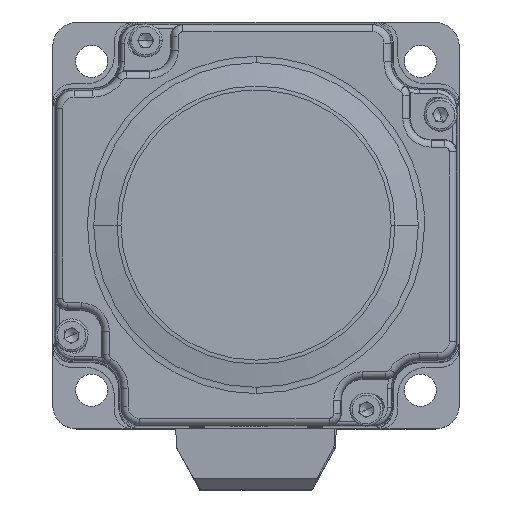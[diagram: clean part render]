
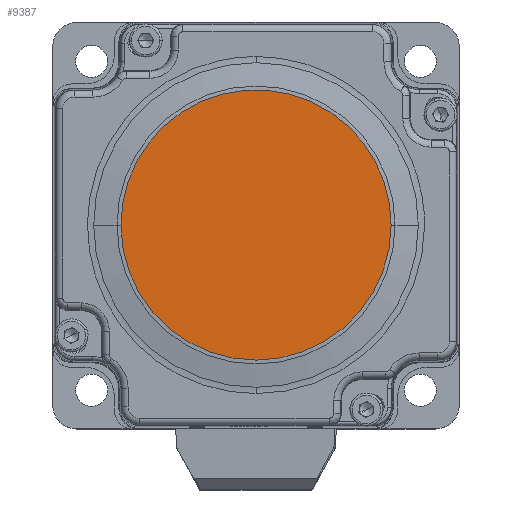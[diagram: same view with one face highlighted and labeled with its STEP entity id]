
A CAD part, top view. The second image highlights one B-rep face of the part: STEP entity #9387.
In plain terms, the highlighted planar face has unit normal (0, 0, 1).
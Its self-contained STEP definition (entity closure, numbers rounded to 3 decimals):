
#353 = AXIS2_PLACEMENT_3D ( 'NONE', #16761, #37972, #19831 ) ;
#804 = CARTESIAN_POINT ( 'NONE',  ( -28.586, -0.063, 38.074 ) ) ;
#863 = ORIENTED_EDGE ( 'NONE', *, *, #30570, .F. ) ;
#1320 = VERTEX_POINT ( 'NONE', #17753 ) ;
#1958 = CARTESIAN_POINT ( 'NONE',  ( -25.705, 12.644, 38.074 ) ) ;
#2082 = CARTESIAN_POINT ( 'NONE',  ( 3.645, 28.414, 38.074 ) ) ;
#2210 = CARTESIAN_POINT ( 'NONE',  ( 28.378, 3.913, 38.074 ) ) ;
#3184 = ORIENTED_EDGE ( 'NONE', *, *, #31317, .F. ) ;
#3390 = ORIENTED_EDGE ( 'NONE', *, *, #11995, .F. ) ;
#4453 = B_SPLINE_CURVE_WITH_KNOTS ( 'NONE', 3,
 ( #20517, #17400, #35635, #23604, #4919, #26656, #8048, #29694, #11262, #32798, #14418, #35763, #17529, #38729, #20640, #1958, #23738, #5043, #26780, #8180, #29817, #11390, #32925, #14539, #35877, #17661, #38861, #20765, #2082, #23875, #5163, #26909, #8323, #29946, #11522, #33048, #14684, #35997, #17786, #38994, #20902, #2210, #24007, #5304 ),
 .UNSPECIFIED., .F., .F.,
 ( 4, 2, 1, 1, 1, 1, 1, 1, 2, 2, 2, 2, 2, 2, 2, 2, 2, 2, 2, 2, 2, 2, 2, 2, 4 ),
 ( 0.003, 0.003, 0.003, 0.004, 0.005, 0.007, 0.011, 0.019, 0.034, 0.065, 0.128, 0.19, 0.252, 0.315, 0.377, 0.439, 0.501, 0.564, 0.626, 0.688, 0.751, 0.813, 0.875, 0.938, 1. ),
 .UNSPECIFIED. ) ;
#4919 = CARTESIAN_POINT ( 'NONE',  ( -28.586, 0.051, 38.074 ) ) ;
#5043 = CARTESIAN_POINT ( 'NONE',  ( -22.752, 17.407, 38.074 ) ) ;
#5163 = CARTESIAN_POINT ( 'NONE',  ( 9.107, 27.161, 38.074 ) ) ;
#5304 = CARTESIAN_POINT ( 'NONE',  ( 28.585, 0.18, 38.074 ) ) ;
#6978 = ORIENTED_EDGE ( 'NONE', *, *, #13167, .F. ) ;
#8048 = CARTESIAN_POINT ( 'NONE',  ( -28.585, 0.204, 38.074 ) ) ;
#8180 = CARTESIAN_POINT ( 'NONE',  ( -18.927, 21.504, 38.074 ) ) ;
#8323 = CARTESIAN_POINT ( 'NONE',  ( 14.221, 24.868, 38.074 ) ) ;
#9237 = CARTESIAN_POINT ( 'NONE',  ( -28.585, -0.18, 38.074 ) ) ;
#9387 = ADVANCED_FACE ( 'NONE', ( #35134 ), #34380, .F. ) ;
#9737 = CARTESIAN_POINT ( 'NONE',  ( 0., 0., 38.074 ) ) ;
#10898 = CARTESIAN_POINT ( 'NONE',  ( 0., 0., 38.074 ) ) ;
#11262 = CARTESIAN_POINT ( 'NONE',  ( -28.576, 0.817, 38.074 ) ) ;
#11390 = CARTESIAN_POINT ( 'NONE',  ( -14.378, 24.778, 38.074 ) ) ;
#11522 = CARTESIAN_POINT ( 'NONE',  ( 18.791, 21.623, 38.074 ) ) ;
#11628 = CARTESIAN_POINT ( 'NONE',  ( -28.586, 0., 38.074 ) ) ;
#11995 = EDGE_CURVE ( 'NONE', #25074, #1320, #12356, .T. ) ;
#12251 = CARTESIAN_POINT ( 'NONE',  ( 28.585, 0.18, 38.074 ) ) ;
#12356 = CIRCLE ( 'NONE', #353, 28.586 ) ;
#13051 = EDGE_LOOP ( 'NONE', ( #3184, #863, #3390, #6978 ) ) ;
#13167 = EDGE_CURVE ( 'NONE', #38525, #25074, #4453, .T. ) ;
#14082 = DIRECTION ( 'NONE',  ( -1., 0., 0. ) ) ;
#14418 = CARTESIAN_POINT ( 'NONE',  ( -28.494, 2.332, 38.074 ) ) ;
#14519 = VERTEX_POINT ( 'NONE', #9237 ) ;
#14539 = CARTESIAN_POINT ( 'NONE',  ( -9.279, 27.103, 38.074 ) ) ;
#14684 = CARTESIAN_POINT ( 'NONE',  ( 22.641, 17.55, 38.074 ) ) ;
#16761 = CARTESIAN_POINT ( 'NONE',  ( 0., 0., 38.074 ) ) ;
#17400 = CARTESIAN_POINT ( 'NONE',  ( -28.586, 0.005, 38.074 ) ) ;
#17529 = CARTESIAN_POINT ( 'NONE',  ( -28.221, 4.65, 38.074 ) ) ;
#17661 = CARTESIAN_POINT ( 'NONE',  ( -3.824, 28.391, 38.074 ) ) ;
#17753 = CARTESIAN_POINT ( 'NONE',  ( 28.586, 0., 38.074 ) ) ;
#17786 = CARTESIAN_POINT ( 'NONE',  ( 25.625, 12.806, 38.074 ) ) ;
#18124 = AXIS2_PLACEMENT_3D ( 'NONE', #10898, #32473, #14082 ) ;
#19831 = DIRECTION ( 'NONE',  ( -1., 0., 0. ) ) ;
#20517 = CARTESIAN_POINT ( 'NONE',  ( -28.586, 0., 38.074 ) ) ;
#20640 = CARTESIAN_POINT ( 'NONE',  ( -27.132, 9.193, 38.074 ) ) ;
#20765 = CARTESIAN_POINT ( 'NONE',  ( 1.777, 28.592, 38.074 ) ) ;
#20902 = CARTESIAN_POINT ( 'NONE',  ( 27.628, 7.572, 38.074 ) ) ;
#22595 = CARTESIAN_POINT ( 'NONE',  ( -28.586, 0., 38.074 ) ) ;
#23604 = CARTESIAN_POINT ( 'NONE',  ( -28.586, 0.029, 38.074 ) ) ;
#23738 = CARTESIAN_POINT ( 'NONE',  ( -24.823, 14.3, 38.074 ) ) ;
#23875 = CARTESIAN_POINT ( 'NONE',  ( 7.31, 27.699, 38.074 ) ) ;
#24007 = CARTESIAN_POINT ( 'NONE',  ( 28.573, 2.047, 38.074 ) ) ;
#25074 = VERTEX_POINT ( 'NONE', #12251 ) ;
#26656 = CARTESIAN_POINT ( 'NONE',  ( -28.586, 0.102, 38.074 ) ) ;
#26780 = CARTESIAN_POINT ( 'NONE',  ( -21.564, 18.859, 38.074 ) ) ;
#26909 = CARTESIAN_POINT ( 'NONE',  ( 12.563, 25.745, 38.074 ) ) ;
#28269 = DIRECTION ( 'NONE',  ( 0., 0., -1. ) ) ;
#29694 = CARTESIAN_POINT ( 'NONE',  ( -28.583, 0.408, 38.074 ) ) ;
#29817 = CARTESIAN_POINT ( 'NONE',  ( -17.479, 22.697, 38.074 ) ) ;
#29946 = CARTESIAN_POINT ( 'NONE',  ( 17.335, 22.807, 38.074 ) ) ;
#30570 = EDGE_CURVE ( 'NONE', #1320, #14519, #34210, .T. ) ;
#31317 = EDGE_CURVE ( 'NONE', #14519, #38525, #39194, .T. ) ;
#32473 = DIRECTION ( 'NONE',  ( 0., 0., -1. ) ) ;
#32798 = CARTESIAN_POINT ( 'NONE',  ( -28.546, 1.633, 38.074 ) ) ;
#32925 = CARTESIAN_POINT ( 'NONE',  ( -12.725, 25.666, 38.074 ) ) ;
#33048 = CARTESIAN_POINT ( 'NONE',  ( 21.444, 18.995, 38.074 ) ) ;
#34210 = CIRCLE ( 'NONE', #18124, 28.586 ) ;
#34380 = PLANE ( 'NONE',  #35669 ) ;
#34518 = CARTESIAN_POINT ( 'NONE',  ( -28.586, -0.123, 38.074 ) ) ;
#34644 = CARTESIAN_POINT ( 'NONE',  ( -28.585, -0.18, 38.074 ) ) ;
#35134 = FACE_OUTER_BOUND ( 'NONE', #13051, .T. ) ;
#35635 = CARTESIAN_POINT ( 'NONE',  ( -28.586, 0.015, 38.074 ) ) ;
#35669 = AXIS2_PLACEMENT_3D ( 'NONE', #9737, #28269, #37350 ) ;
#35763 = CARTESIAN_POINT ( 'NONE',  ( -28.357, 3.725, 38.074 ) ) ;
#35877 = CARTESIAN_POINT ( 'NONE',  ( -7.485, 27.652, 38.074 ) ) ;
#35997 = CARTESIAN_POINT ( 'NONE',  ( 24.732, 14.456, 38.074 ) ) ;
#37350 = DIRECTION ( 'NONE',  ( -1., 0., 0. ) ) ;
#37972 = DIRECTION ( 'NONE',  ( 0., 0., -1. ) ) ;
#38525 = VERTEX_POINT ( 'NONE', #11628 ) ;
#38729 = CARTESIAN_POINT ( 'NONE',  ( -27.675, 7.397, 38.074 ) ) ;
#38861 = CARTESIAN_POINT ( 'NONE',  ( -1.957, 28.58, 38.074 ) ) ;
#38994 = CARTESIAN_POINT ( 'NONE',  ( 27.073, 9.364, 38.074 ) ) ;
#39194 = B_SPLINE_CURVE_WITH_KNOTS ( 'NONE', 3,
 ( #34644, #34518, #804, #22595 ),
 .UNSPECIFIED., .F., .F.,
 ( 4, 4 ),
 ( 0., 0.003 ),
 .UNSPECIFIED. ) ;
